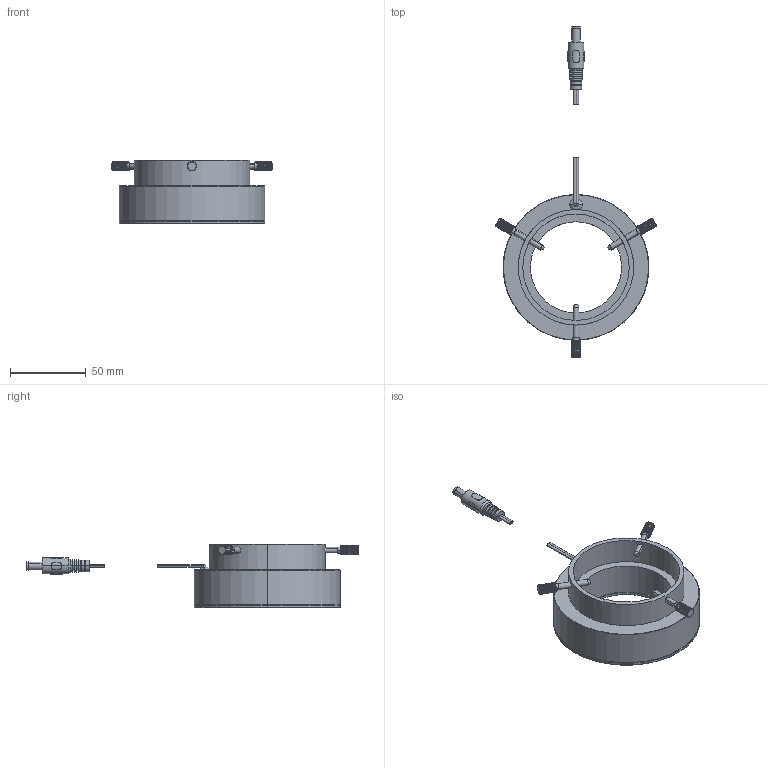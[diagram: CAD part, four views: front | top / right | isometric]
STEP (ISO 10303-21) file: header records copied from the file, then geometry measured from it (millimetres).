
FILE_DESCRIPTION(('STEP AP214'),'1');
FILE_NAME('GR80-N2.stp','2023-03-27T06:03:29',(' '),(' '),'Spatial InterOp 3D',' ',' ');
FILE_SCHEMA(('AUTOMOTIVE_DESIGN { 1 0 10303 214 1 1 1 1 }'));
Length unit declared in the file: metre
Products named in the file (3): GR80-N2; Component1; Component2
Assembly tree (2 placements, depth 2):
  GR80-N2
    Component1
    Component2
Bounding box: 106.15 x 218.5 x 42 mm (x, y, z)
Volume: 103274.8 mm3; surface area: 71860.2 mm2
Topology: 3 solids, 3 shells, 900 faces, 2543 edges, 1592 vertices
Faces by surface type: plane 396, cylinder 280, sphere 166, cone 48, torus 8, bspline 2
Entity records: 34636 total; most frequent: CARTESIAN_POINT 12065, ORIENTED_EDGE 4746, DIRECTION 4703, EDGE_CURVE 2373, AXIS2_PLACEMENT_3D 1846, VERTEX_POINT 1592, EDGE_LOOP 1023, LINE 1011
